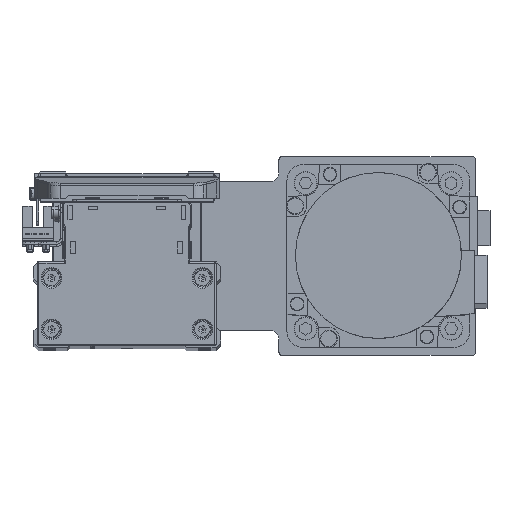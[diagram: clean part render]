
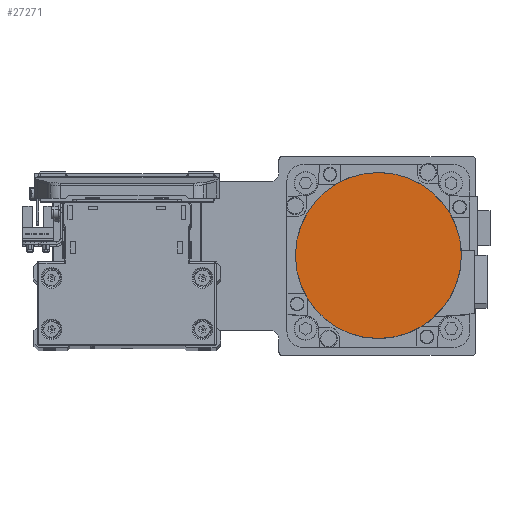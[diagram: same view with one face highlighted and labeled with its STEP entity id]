
A CAD part, top view. The second image highlights one B-rep face of the part: STEP entity #27271.
In plain terms, the highlighted planar face has unit normal (0, 0, 1) as drawn and (0, 0, -1) by its records, which use the part's own axes.
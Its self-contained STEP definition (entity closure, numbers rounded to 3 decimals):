
#1559 = DIRECTION ( 'NONE',  ( 0., 1., 0. ) ) ;
#5151 = ORIENTED_EDGE ( 'NONE', *, *, #7466, .F. ) ;
#5602 = ORIENTED_EDGE ( 'NONE', *, *, #20674, .F. ) ;
#5926 = CARTESIAN_POINT ( 'NONE',  ( 0., 0., -122.2 ) ) ;
#6698 = CARTESIAN_POINT ( 'NONE',  ( 0., 36.3, -122.2 ) ) ;
#7466 = EDGE_CURVE ( 'NONE', #12276, #19753, #9621, .T. ) ;
#8812 = DIRECTION ( 'NONE',  ( 0., 0., 1. ) ) ;
#9621 = CIRCLE ( 'NONE', #32085, 36.3 ) ;
#12276 = VERTEX_POINT ( 'NONE', #6698 ) ;
#16835 = CARTESIAN_POINT ( 'NONE',  ( 0., 0., -122.2 ) ) ;
#18186 = DIRECTION ( 'NONE',  ( 0., 0., 1. ) ) ;
#19753 = VERTEX_POINT ( 'NONE', #31005 ) ;
#20674 = EDGE_CURVE ( 'NONE', #19753, #12276, #38129, .T. ) ;
#20860 = AXIS2_PLACEMENT_3D ( 'NONE', #36314, #8812, #21080 ) ;
#21080 = DIRECTION ( 'NONE',  ( 0., -1., 0. ) ) ;
#21191 = FACE_OUTER_BOUND ( 'NONE', #25250, .T. ) ;
#25250 = EDGE_LOOP ( 'NONE', ( #5151, #5602 ) ) ;
#27271 = ADVANCED_FACE ( 'NONE', ( #21191 ), #33444, .F. ) ;
#29074 = DIRECTION ( 'NONE',  ( 0., 0., 1. ) ) ;
#30416 = DIRECTION ( 'NONE',  ( 1., 0., 0. ) ) ;
#31005 = CARTESIAN_POINT ( 'NONE',  ( 0., -36.3, -122.2 ) ) ;
#32085 = AXIS2_PLACEMENT_3D ( 'NONE', #16835, #29074, #1559 ) ;
#33444 = PLANE ( 'NONE',  #35864 ) ;
#35864 = AXIS2_PLACEMENT_3D ( 'NONE', #5926, #18186, #30416 ) ;
#36314 = CARTESIAN_POINT ( 'NONE',  ( 0., 0., -122.2 ) ) ;
#38129 = CIRCLE ( 'NONE', #20860, 36.3 ) ;
